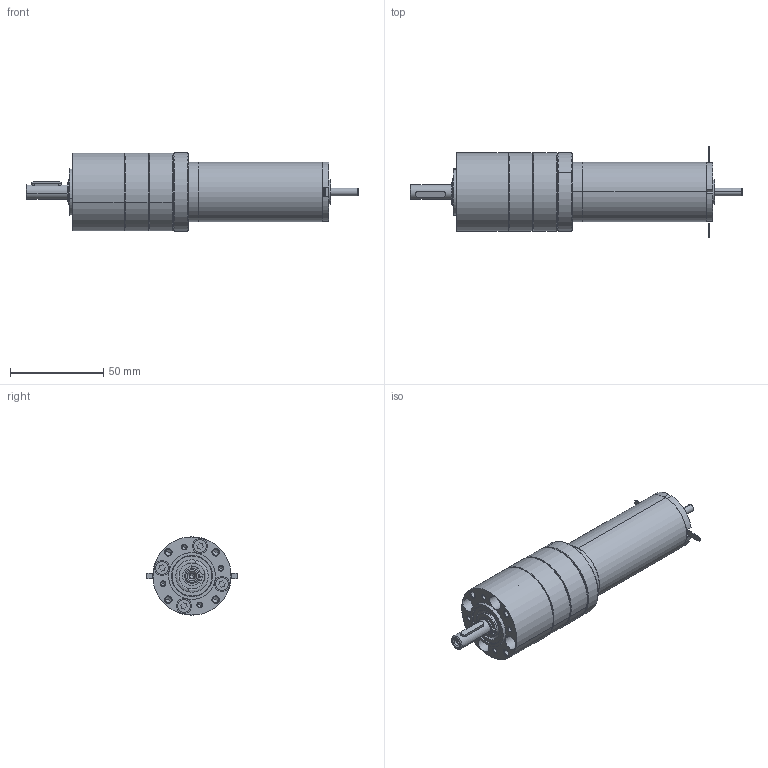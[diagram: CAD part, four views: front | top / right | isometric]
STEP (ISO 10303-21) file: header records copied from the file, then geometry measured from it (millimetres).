
FILE_DESCRIPTION (( 'STEP AP214' ), '1' );
FILE_NAME ('DCX32LG + PM42-2 étages.STEP', '2014-10-15T09:16:40', ( '' ), ( '' ), 'SwSTEP 2.0', 'SolidWorks 2013', '' );
FILE_SCHEMA (( 'AUTOMOTIVE_DESIGN' ));
Length unit declared in the file: millimetre
Products named in the file (36): 16; 15; PM42 pour DCX32LG_2 etages; 14; Coté sortie^PM42 pour DCX32LG; 13; SCHRAUBE_1241978_17; 12; 3X3X16_D6885A_11; 11; D471_8X0_8_11; 10; 8001316_ABTRIEB_LK4_KPL_10; 9; 8001305_LAGERBOLZEN_11; 8; VBZ_K7841_ABTRIEB_AF0_11; 7; DIN998_PS_8X14X1_11; 6; D625-608-2RS_10; 1228610; 8007595_LAGERFLANSCH_10; 5; Coté moteur^PM42 pour DCX32LG; 4; MOTORFLANSCH_1240243; 3; 8012556_MOTORRITZEL_Z17_1_3; 2; 8001288_ANLAUFSCHEIBE_1ST_9; 1; 8007606_DICHTRING_10; P8209_8007589_ZAHNKRANZ_Z46_10; DCX32LG + PM42-2 étages; DCX32LG
Assembly tree (45 placements, depth 5):
  DCX32LG + PM42-2 étages
    DCX32LG
      1
      2
      3
      4
      5
      1228610
      6
      7
      8
      9
      10
      11
      12
      13
      14
      15
      16
    PM42 pour DCX32LG_2 etages
      P8209_8007589_ZAHNKRANZ_Z46_10  x2
      Coté moteur^PM42 pour DCX32LG
        8007606_DICHTRING_10
        8001288_ANLAUFSCHEIBE_1ST_9
        8012556_MOTORRITZEL_Z17_1_3
        MOTORFLANSCH_1240243
      Coté sortie^PM42 pour DCX32LG
        8007595_LAGERFLANSCH_10
        D625-608-2RS_10  x2
        DIN998_PS_8X14X1_11  x2
        8001316_ABTRIEB_LK4_KPL_10
          VBZ_K7841_ABTRIEB_AF0_11
          8001305_LAGERBOLZEN_11  x3
        D471_8X0_8_11
        3X3X16_D6885A_11
        8007606_DICHTRING_10
        SCHRAUBE_1241978_17  x4
      8007606_DICHTRING_10
Bounding box: 178.1 x 49.3 x 42 mm (x, y, z)
Volume: 75570.4 mm3; surface area: 71107.9 mm2
Topology: 37 solids, 63 shells, 2285 faces, 5484 edges, 3364 vertices
Faces by surface type: cylinder 807, cone 775, plane 587, bspline 116
Entity records: 76444 total; most frequent: CARTESIAN_POINT 15366, DIRECTION 10328, ORIENTED_EDGE 8982, EDGE_CURVE 4519, AXIS2_PLACEMENT_3D 4043, VERTEX_POINT 2746, VECTOR 2242, LINE 2242
